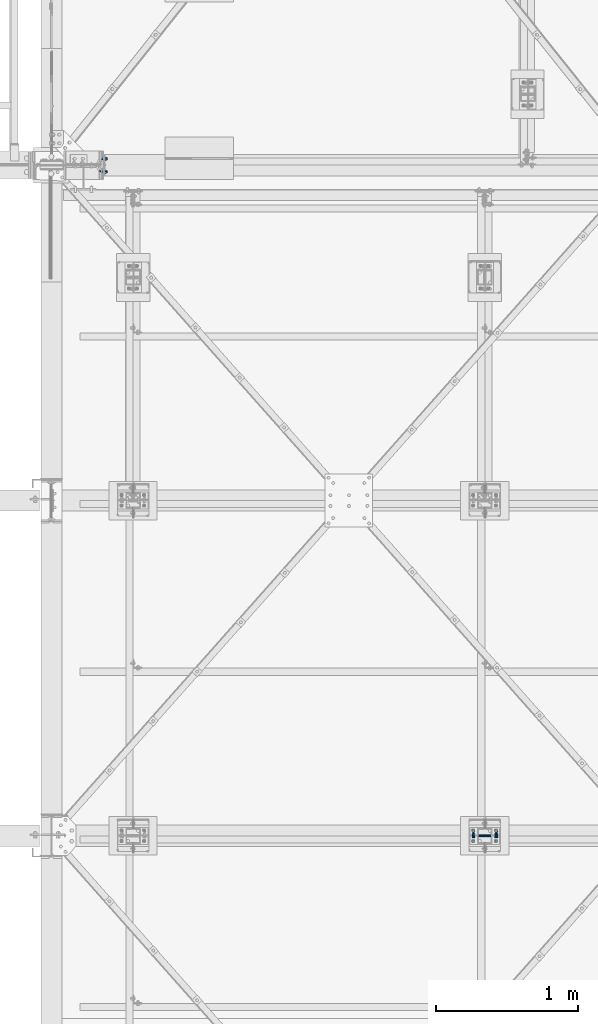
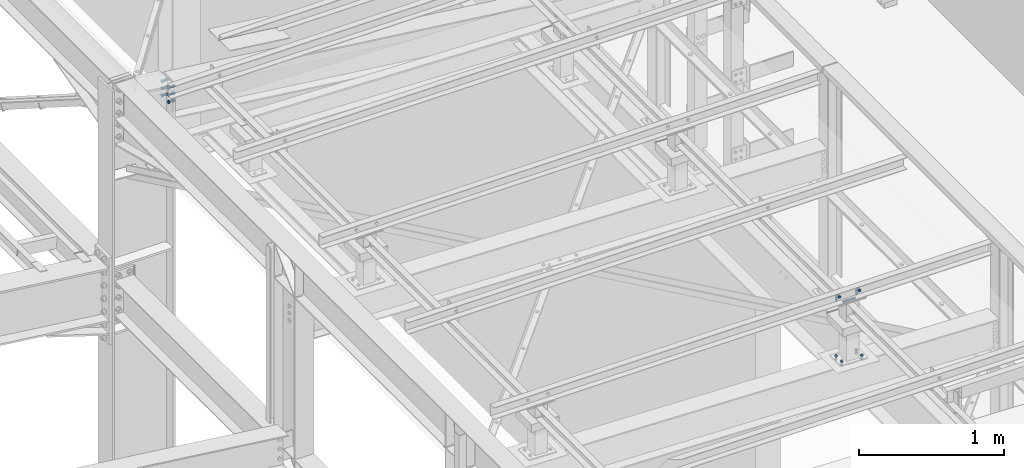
# One storey, part 357 of 3134: 5 mechanical fasteners, 4 elements without a shape of their own.
"""IFC2X3 building model written with IfcOpenShell, lengths in millimetres."""

from ifc_helpers import new_model, si_unit, frame, origin_with_axes, place, context, subcontext, project, spatial, faceted_brep, source, transform, mapped, material, type_object, element, aggregate, save


model = new_model("IFC2X3")

# Units and contexts
model_context = context("Model", 3, precision=1e-05, world=origin_with_axes())
body_context = subcontext(model_context, "Body", "Model", "MODEL_VIEW")
ifc_project = project(units=[si_unit("LENGTHUNIT", "METRE", prefix="MILLI"), si_unit("AREAUNIT", "SQUARE_METRE"), si_unit("VOLUMEUNIT", "CUBIC_METRE"), si_unit("MASSUNIT", "GRAM", prefix="KILO"), si_unit("TIMEUNIT", "SECOND"), si_unit("PLANEANGLEUNIT", "RADIAN"), si_unit("SOLIDANGLEUNIT", "STERADIAN"), si_unit("THERMODYNAMICTEMPERATUREUNIT", "DEGREE_CELSIUS"), si_unit("LUMINOUSINTENSITYUNIT", "LUMEN")], contexts=[model_context])

# Site, building, storey
site_placement = place(None, origin_with_axes())
site = spatial("IfcSite", under=ifc_project, at=site_placement, CompositionType="ELEMENT")
building_placement = place(site_placement, origin_with_axes())
building = spatial("IfcBuilding", under=site, at=building_placement, Name="Undefined", CompositionType="ELEMENT")
storey_placement = place(building_placement, origin_with_axes())
storey = spatial("IfcBuildingStorey", under=building, at=storey_placement, Name="Undefined", CompositionType="ELEMENT", Elevation=0.0)

# Assembly, mechanical fastener
assembly_1_placement = place(storey_placement, origin_with_axes())
assembly_1 = element("IfcElementAssembly", 1, at=assembly_1_placement, inside=storey, AssemblyPlace="NOTDEFINED", PredefinedType="RIGID_FRAME")
ifc_material = material(Name="8.8")
mechanical_fastener_type = type_object("IfcMechanicalFastenerType", Name="Bolt assembly")
shared_shape_1 = source(origin_with_axes(), body_context, "Body", "Brep", [
    faceted_brep([(10.9696551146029, -14.0, 0.0), (5.48482755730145, -14.0, 9.5), (-5.48482755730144, -14.0, 9.5), (-10.9696551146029, -14.0, 1.34339530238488e-15), (-5.48482755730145, -14.0, -9.5), (5.48482755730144, -14.0, -9.50000000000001), (5.48482755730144, -6.0, -9.50000000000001), (-5.48482755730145, -6.0, -9.5), (-10.9696551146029, -6.0, 1.34339530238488e-15), (-5.48482755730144, -6.0, 9.5), (5.48482755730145, -6.0, 9.5), (10.9696551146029, -6.0, 0.0), (6.0, -6.0, 0.0), (5.19615242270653, -6.0, 3.00000000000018), (2.99999999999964, -6.0, 5.19615242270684), (-6.21801588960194e-13, -6.0, 6.0), (-3.00000000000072, -6.0, 5.19615242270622), (-5.19615242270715, -6.0, 2.9999999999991), (-6.0, -6.0, -1.24360317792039e-12), (-5.19615242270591, -6.0, -3.00000000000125), (-2.99999999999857, -6.0, -5.19615242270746), (1.85874342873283e-12, -6.0, -6.0), (3.00000000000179, -6.0, -5.1961524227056), (5.19615242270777, -6.0, -2.99999999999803), (5.19615242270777, 24.0, -2.99999999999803), (3.00000000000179, 24.0, -5.1961524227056), (1.85874342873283e-12, 24.0, -6.0), (-2.99999999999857, 24.0, -5.19615242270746), (-5.19615242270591, 24.0, -3.00000000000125), (-6.0, 24.0, -1.24360317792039e-12), (-5.19615242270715, 24.0, 2.9999999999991), (-3.00000000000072, 24.0, 5.19615242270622), (-6.21801588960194e-13, 24.0, 6.0), (2.99999999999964, 24.0, 5.19615242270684), (5.19615242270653, 24.0, 3.00000000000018), (6.0, 24.0, 0.0), (10.9696551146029, 6.00000000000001, 0.0), (5.48482755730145, 6.00000000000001, 9.5), (-5.48482755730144, 6.00000000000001, 9.5), (-10.9696551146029, 6.00000000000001, 1.34339530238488e-15), (-5.48482755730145, 6.00000000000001, -9.5), (5.48482755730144, 6.00000000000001, -9.50000000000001), (5.48482755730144, 16.0, -9.50000000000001), (-5.48482755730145, 16.0, -9.5), (-10.9696551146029, 16.0, 1.34339530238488e-15), (-5.48482755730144, 16.0, 9.5), (5.48482755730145, 16.0, 9.5), (10.9696551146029, 16.0, 0.0)], [[[0, 1, 2, 3, 4, 5]], [[6, 7, 8, 9, 10, 11]], [[0, 11, 10, 1]], [[1, 10, 9, 2]], [[2, 9, 8, 3]], [[3, 8, 7, 4]], [[4, 7, 6, 5]], [[5, 6, 11, 0]], [[12, 13, 14, 15, 16, 17, 18, 19, 20, 21, 22, 23]], [[24, 25, 26, 27, 28, 29, 30, 31, 32, 33, 34, 35]], [[12, 35, 34, 13]], [[13, 34, 33, 14]], [[14, 33, 32, 15]], [[15, 32, 31, 16]], [[16, 31, 30, 17]], [[17, 30, 29, 18]], [[18, 29, 28, 19]], [[19, 28, 27, 20]], [[20, 27, 26, 21]], [[21, 26, 25, 22]], [[22, 25, 24, 23]], [[23, 24, 35, 12]], [[36, 37, 38, 39, 40, 41]], [[42, 43, 44, 45, 46, 47]], [[36, 47, 46, 37]], [[37, 46, 45, 38]], [[38, 45, 44, 39]], [[39, 44, 43, 40]], [[40, 43, 42, 41]], [[41, 42, 47, 36]]]),
    faceted_brep([(7.0, -0.1, 0.0), (6.06217782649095, -0.1, 3.50000000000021), (3.49999999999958, -0.1, 6.06217782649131), (-7.25435187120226e-13, -0.1, 7.0), (-3.50000000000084, -0.1, 6.06217782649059), (-6.06217782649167, -0.1, 3.49999999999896), (-7.0, -0.1, -1.45087037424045e-12), (-6.06217782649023, -0.1, -3.50000000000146), (-3.49999999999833, -0.1, -6.06217782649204), (2.1685340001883e-12, -0.1, -7.0), (3.50000000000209, -0.1, -6.06217782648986), (6.0621778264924, -0.1, -3.4999999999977), (6.0621778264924, 6.00000000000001, -3.4999999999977), (3.50000000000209, 6.00000000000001, -6.06217782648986), (2.1685340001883e-12, 6.00000000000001, -7.0), (-3.49999999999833, 6.00000000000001, -6.06217782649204), (-6.06217782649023, 6.00000000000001, -3.50000000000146), (-7.0, 6.00000000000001, -1.45087037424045e-12), (-6.06217782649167, 6.00000000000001, 3.49999999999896), (-3.50000000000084, 6.00000000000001, 6.06217782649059), (-7.25435187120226e-13, 6.00000000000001, 7.0), (3.49999999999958, 6.00000000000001, 6.06217782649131), (6.06217782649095, 6.00000000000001, 3.50000000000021), (7.0, 6.00000000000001, 0.0), (7.0, -5.9, 0.0), (6.06217782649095, -5.9, 3.50000000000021), (3.49999999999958, -5.9, 6.06217782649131), (-7.25435187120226e-13, -5.9, 7.0), (-3.50000000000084, -5.9, 6.06217782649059), (-6.06217782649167, -5.9, 3.49999999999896), (-7.0, -5.9, -1.45087037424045e-12), (-6.06217782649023, -5.9, -3.50000000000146), (-3.49999999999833, -5.9, -6.06217782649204), (2.1685340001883e-12, -5.9, -7.0), (3.50000000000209, -5.9, -6.06217782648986), (6.0621778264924, -5.9, -3.4999999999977), (6.0621778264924, 0.0999999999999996, -3.4999999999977), (3.50000000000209, 0.0999999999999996, -6.06217782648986), (2.1685340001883e-12, 0.0999999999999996, -7.0), (-3.49999999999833, 0.0999999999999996, -6.06217782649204), (-6.06217782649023, 0.0999999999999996, -3.50000000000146), (-7.0, 0.0999999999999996, -1.45087037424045e-12), (-6.06217782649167, 0.0999999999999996, 3.49999999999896), (-3.50000000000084, 0.0999999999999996, 6.06217782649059), (-7.25435187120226e-13, 0.0999999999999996, 7.0), (3.49999999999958, 0.0999999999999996, 6.06217782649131), (6.06217782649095, 0.0999999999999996, 3.50000000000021), (7.0, 0.0999999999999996, 0.0)], [[[0, 1, 2, 3, 4, 5, 6, 7, 8, 9, 10, 11]], [[12, 13, 14, 15, 16, 17, 18, 19, 20, 21, 22, 23]], [[0, 23, 22, 1]], [[1, 22, 21, 2]], [[2, 21, 20, 3]], [[3, 20, 19, 4]], [[4, 19, 18, 5]], [[5, 18, 17, 6]], [[6, 17, 16, 7]], [[7, 16, 15, 8]], [[8, 15, 14, 9]], [[9, 14, 13, 10]], [[10, 13, 12, 11]], [[11, 12, 23, 0]], [[24, 25, 26, 27, 28, 29, 30, 31, 32, 33, 34, 35]], [[36, 37, 38, 39, 40, 41, 42, 43, 44, 45, 46, 47]], [[24, 47, 46, 25]], [[25, 46, 45, 26]], [[26, 45, 44, 27]], [[27, 44, 43, 28]], [[28, 43, 42, 29]], [[29, 42, 41, 30]], [[30, 41, 40, 31]], [[31, 40, 39, 32]], [[32, 39, 38, 33]], [[33, 38, 37, 34]], [[34, 37, 36, 35]], [[35, 36, 47, 24]]]),
])
mechanical_fastener_1_placement = place(assembly_1_placement, frame((70600.0, 14765.0, 5850.0), z_axis=(1.0, 0.0, 0.0), x_axis=(0.0, -1.0, 0.0)))
mechanical_fastener_1 = element("IfcMechanicalFastener", 2, at=mechanical_fastener_1_placement, type_object=mechanical_fastener_type, material=ifc_material, Name="Bolt assembly", NominalDiameter=12.0, NominalLength=30.0, context=body_context, shape_type="MappedRepresentation", body=[
    mapped(shared_shape_1, transform((0.0, -5.32963895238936e-10, -79.9999999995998))),
    mapped(shared_shape_1, transform((0.0, 5.3114490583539e-10, 79.9999999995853))),
])

assembly_2_placement = place(storey_placement, origin_with_axes())
assembly_2 = element("IfcElementAssembly", 3, at=assembly_2_placement, inside=storey, AssemblyPlace="NOTDEFINED", PredefinedType="RIGID_FRAME")
shared_shape_2 = source(origin_with_axes(), body_context, "Body", "Brep", [
    faceted_brep([(9.0, -50.0, 0.0), (7.79422863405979, -50.0, 4.50000000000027), (4.49999999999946, -50.0, 7.79422863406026), (-9.3270238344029e-13, -50.0, 9.0), (-4.50000000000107, -50.0, 7.79422863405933), (-7.79422863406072, -50.0, 4.49999999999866), (-9.0, -50.0, -1.86540476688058e-12), (-7.79422863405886, -50.0, -4.50000000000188), (-4.49999999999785, -50.0, -7.79422863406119), (2.78811514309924e-12, -50.0, -9.0), (4.50000000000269, -50.0, -7.7942286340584), (7.79422863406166, -50.0, -4.49999999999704), (7.79422863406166, 50.1, -4.49999999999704), (4.50000000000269, 50.1, -7.7942286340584), (2.78811514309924e-12, 50.1, -9.0), (-4.49999999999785, 50.1, -7.79422863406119), (-7.79422863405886, 50.1, -4.50000000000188), (-9.0, 50.1, -1.86540476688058e-12), (-7.79422863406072, 50.1, 4.49999999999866), (-4.50000000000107, 50.1, 7.79422863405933), (-9.3270238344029e-13, 50.1, 9.0), (4.49999999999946, 50.1, 7.79422863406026), (7.79422863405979, 50.1, 4.50000000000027), (9.0, 50.1, 0.0)], [[[0, 1, 2, 3, 4, 5, 6, 7, 8, 9, 10, 11]], [[12, 13, 14, 15, 16, 17, 18, 19, 20, 21, 22, 23]], [[0, 23, 22, 1]], [[1, 22, 21, 2]], [[2, 21, 20, 3]], [[3, 20, 19, 4]], [[4, 19, 18, 5]], [[5, 18, 17, 6]], [[6, 17, 16, 7]], [[7, 16, 15, 8]], [[8, 15, 14, 9]], [[9, 14, 13, 10]], [[10, 13, 12, 11]], [[11, 12, 23, 0]]]),
])
mechanical_fastener_2_placement = place(assembly_2_placement, frame((70600.0, 14730.0, 5830.0), z_axis=(0.0, 1.0, 0.0), x_axis=(0.0, 0.0, 1.0)))
mechanical_fastener_2 = element("IfcMechanicalFastener", 4, at=mechanical_fastener_2_placement, type_object=mechanical_fastener_type, material=ifc_material, Name="Bolt assembly", NominalDiameter=16.0, NominalLength=100.0, context=body_context, shape_type="MappedRepresentation", body=[
    mapped(shared_shape_2, transform((0.0, 0.0, 0.0))),
])
aggregate(assembly_2, [mechanical_fastener_2])

# Mechanical fastener
shared_shape_3 = source(origin_with_axes(), body_context, "Body", "Brep", [
    faceted_brep([(10.9696551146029, -12.0, 0.0), (5.48482755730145, -12.0, 9.5), (-5.48482755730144, -12.0, 9.5), (-10.9696551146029, -12.0, 1.34339530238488e-15), (-5.48482755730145, -12.0, -9.5), (5.48482755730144, -12.0, -9.50000000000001), (5.48482755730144, -4.0, -9.50000000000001), (-5.48482755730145, -4.0, -9.5), (-10.9696551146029, -4.0, 1.34339530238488e-15), (-5.48482755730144, -4.0, 9.5), (5.48482755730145, -4.0, 9.5), (10.9696551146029, -4.0, 0.0), (6.0, -4.0, 0.0), (5.19615242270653, -4.0, 3.00000000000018), (2.99999999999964, -4.0, 5.19615242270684), (-6.21801588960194e-13, -4.0, 6.0), (-3.00000000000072, -4.0, 5.19615242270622), (-5.19615242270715, -4.0, 2.9999999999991), (-6.0, -4.0, -1.24360317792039e-12), (-5.19615242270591, -4.0, -3.00000000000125), (-2.99999999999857, -4.0, -5.19615242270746), (1.85874342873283e-12, -4.0, -6.0), (3.00000000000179, -4.0, -5.1961524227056), (5.19615242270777, -4.0, -2.99999999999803), (5.19615242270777, 21.0, -2.99999999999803), (3.00000000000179, 21.0, -5.1961524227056), (1.85874342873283e-12, 21.0, -6.0), (-2.99999999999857, 21.0, -5.19615242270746), (-5.19615242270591, 21.0, -3.00000000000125), (-6.0, 21.0, -1.24360317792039e-12), (-5.19615242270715, 21.0, 2.9999999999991), (-3.00000000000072, 21.0, 5.19615242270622), (-6.21801588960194e-13, 21.0, 6.0), (2.99999999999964, 21.0, 5.19615242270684), (5.19615242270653, 21.0, 3.00000000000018), (6.0, 21.0, 0.0), (10.9696551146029, 6.00000000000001, 0.0), (5.48482755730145, 6.00000000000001, 9.5), (-5.48482755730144, 6.00000000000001, 9.5), (-10.9696551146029, 6.00000000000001, 1.34339530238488e-15), (-5.48482755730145, 6.00000000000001, -9.5), (5.48482755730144, 6.00000000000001, -9.50000000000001), (5.48482755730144, 16.0, -9.50000000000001), (-5.48482755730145, 16.0, -9.5), (-10.9696551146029, 16.0, 1.34339530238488e-15), (-5.48482755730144, 16.0, 9.5), (5.48482755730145, 16.0, 9.5), (10.9696551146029, 16.0, 0.0)], [[[0, 1, 2, 3, 4, 5]], [[6, 7, 8, 9, 10, 11]], [[0, 11, 10, 1]], [[1, 10, 9, 2]], [[2, 9, 8, 3]], [[3, 8, 7, 4]], [[4, 7, 6, 5]], [[5, 6, 11, 0]], [[12, 13, 14, 15, 16, 17, 18, 19, 20, 21, 22, 23]], [[24, 25, 26, 27, 28, 29, 30, 31, 32, 33, 34, 35]], [[12, 35, 34, 13]], [[13, 34, 33, 14]], [[14, 33, 32, 15]], [[15, 32, 31, 16]], [[16, 31, 30, 17]], [[17, 30, 29, 18]], [[18, 29, 28, 19]], [[19, 28, 27, 20]], [[20, 27, 26, 21]], [[21, 26, 25, 22]], [[22, 25, 24, 23]], [[23, 24, 35, 12]], [[36, 37, 38, 39, 40, 41]], [[42, 43, 44, 45, 46, 47]], [[36, 47, 46, 37]], [[37, 46, 45, 38]], [[38, 45, 44, 39]], [[39, 44, 43, 40]], [[40, 43, 42, 41]], [[41, 42, 47, 36]]]),
    faceted_brep([(7.0, -3.9, 0.0), (6.06217782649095, -3.9, 3.50000000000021), (3.49999999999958, -3.9, 6.06217782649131), (-7.25435187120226e-13, -3.9, 7.0), (-3.50000000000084, -3.9, 6.06217782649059), (-6.06217782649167, -3.9, 3.49999999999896), (-7.0, -3.9, -1.45087037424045e-12), (-6.06217782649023, -3.9, -3.50000000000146), (-3.49999999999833, -3.9, -6.06217782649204), (2.1685340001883e-12, -3.9, -7.0), (3.50000000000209, -3.9, -6.06217782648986), (6.0621778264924, -3.9, -3.4999999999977), (6.0621778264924, 0.0999999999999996, -3.4999999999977), (3.50000000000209, 0.0999999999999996, -6.06217782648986), (2.1685340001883e-12, 0.0999999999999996, -7.0), (-3.49999999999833, 0.0999999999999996, -6.06217782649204), (-6.06217782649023, 0.0999999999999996, -3.50000000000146), (-7.0, 0.0999999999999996, -1.45087037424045e-12), (-6.06217782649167, 0.0999999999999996, 3.49999999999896), (-3.50000000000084, 0.0999999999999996, 6.06217782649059), (-7.25435187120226e-13, 0.0999999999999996, 7.0), (3.49999999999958, 0.0999999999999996, 6.06217782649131), (6.06217782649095, 0.0999999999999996, 3.50000000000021), (7.0, 0.0999999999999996, 0.0), (7.0, -0.1, 0.0), (6.06217782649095, -0.1, 3.50000000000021), (3.49999999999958, -0.1, 6.06217782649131), (-7.25435187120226e-13, -0.1, 7.0), (-3.50000000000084, -0.1, 6.06217782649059), (-6.06217782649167, -0.1, 3.49999999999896), (-7.0, -0.1, -1.45087037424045e-12), (-6.06217782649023, -0.1, -3.50000000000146), (-3.49999999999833, -0.1, -6.06217782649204), (2.1685340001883e-12, -0.1, -7.0), (3.50000000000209, -0.1, -6.06217782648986), (6.0621778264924, -0.1, -3.4999999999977), (6.0621778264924, 6.00000000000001, -3.4999999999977), (3.50000000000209, 6.00000000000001, -6.06217782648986), (2.1685340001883e-12, 6.00000000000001, -7.0), (-3.49999999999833, 6.00000000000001, -6.06217782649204), (-6.06217782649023, 6.00000000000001, -3.50000000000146), (-7.0, 6.00000000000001, -1.45087037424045e-12), (-6.06217782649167, 6.00000000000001, 3.49999999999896), (-3.50000000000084, 6.00000000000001, 6.06217782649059), (-7.25435187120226e-13, 6.00000000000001, 7.0), (3.49999999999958, 6.00000000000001, 6.06217782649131), (6.06217782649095, 6.00000000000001, 3.50000000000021), (7.0, 6.00000000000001, 0.0)], [[[0, 1, 2, 3, 4, 5, 6, 7, 8, 9, 10, 11]], [[12, 13, 14, 15, 16, 17, 18, 19, 20, 21, 22, 23]], [[0, 23, 22, 1]], [[1, 22, 21, 2]], [[2, 21, 20, 3]], [[3, 20, 19, 4]], [[4, 19, 18, 5]], [[5, 18, 17, 6]], [[6, 17, 16, 7]], [[7, 16, 15, 8]], [[8, 15, 14, 9]], [[9, 14, 13, 10]], [[10, 13, 12, 11]], [[11, 12, 23, 0]], [[24, 25, 26, 27, 28, 29, 30, 31, 32, 33, 34, 35]], [[36, 37, 38, 39, 40, 41, 42, 43, 44, 45, 46, 47]], [[24, 47, 46, 25]], [[25, 46, 45, 26]], [[26, 45, 44, 27]], [[27, 44, 43, 28]], [[28, 43, 42, 29]], [[29, 42, 41, 30]], [[30, 41, 40, 31]], [[31, 40, 39, 32]], [[32, 39, 38, 33]], [[33, 38, 37, 34]], [[34, 37, 36, 35]], [[35, 36, 47, 24]]]),
])
mechanical_fastener_3_placement = place(assembly_1_placement, frame((70600.0, 14730.0, 5885.0), z_axis=(1.0, 0.0, 0.0), x_axis=(0.0, 0.0, -1.0)))
mechanical_fastener_3 = element("IfcMechanicalFastener", 5, at=mechanical_fastener_3_placement, type_object=mechanical_fastener_type, material=ifc_material, Name="Bolt assembly", NominalDiameter=12.0, NominalLength=25.0, context=body_context, shape_type="MappedRepresentation", body=[
    mapped(shared_shape_3, transform((0.0, -5.32963895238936e-10, -79.9999999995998))),
    mapped(shared_shape_3, transform((0.0, 5.3114490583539e-10, 79.9999999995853))),
])

aggregate(assembly_1, [mechanical_fastener_3, mechanical_fastener_1])

# Assembly, mechanical fastener
assembly_3_placement = place(storey_placement, origin_with_axes())
assembly_3 = element("IfcElementAssembly", 6, at=assembly_3_placement, inside=storey, Name="300", AssemblyPlace="NOTDEFINED", PredefinedType="RIGID_FRAME")
shared_shape_4 = source(origin_with_axes(), body_context, "Body", "Brep", [
    faceted_brep([(10.9696551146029, -10.1955642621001, 0.0), (5.48482755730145, -10.1955642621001, 9.5), (-5.48482755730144, -10.1955642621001, 9.5), (-10.9696551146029, -10.1955642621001, 1.34339530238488e-15), (-5.48482755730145, -10.1955642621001, -9.5), (5.48482755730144, -10.1955642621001, -9.50000000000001), (5.48482755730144, -2.19556426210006, -9.50000000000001), (-5.48482755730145, -2.19556426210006, -9.5), (-10.9696551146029, -2.19556426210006, 1.34339530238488e-15), (-5.48482755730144, -2.19556426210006, 9.5), (5.48482755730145, -2.19556426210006, 9.5), (10.9696551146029, -2.19556426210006, 0.0), (6.0, -2.19556426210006, 0.0), (5.19615242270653, -2.19556426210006, 3.00000000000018), (2.99999999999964, -2.19556426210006, 5.19615242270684), (-6.21801588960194e-13, -2.19556426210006, 6.0), (-3.00000000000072, -2.19556426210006, 5.19615242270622), (-5.19615242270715, -2.19556426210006, 2.9999999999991), (-6.0, -2.19556426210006, -1.24360317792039e-12), (-5.19615242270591, -2.19556426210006, -3.00000000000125), (-2.99999999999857, -2.19556426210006, -5.19615242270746), (1.85874342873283e-12, -2.19556426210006, -6.0), (3.00000000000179, -2.19556426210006, -5.1961524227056), (5.19615242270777, -2.19556426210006, -2.99999999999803), (5.19615242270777, 32.8044357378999, -2.99999999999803), (3.00000000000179, 32.8044357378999, -5.1961524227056), (1.85874342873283e-12, 32.8044357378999, -6.0), (-2.99999999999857, 32.8044357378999, -5.19615242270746), (-5.19615242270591, 32.8044357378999, -3.00000000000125), (-6.0, 32.8044357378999, -1.24360317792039e-12), (-5.19615242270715, 32.8044357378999, 2.9999999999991), (-3.00000000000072, 32.8044357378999, 5.19615242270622), (-6.21801588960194e-13, 32.8044357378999, 6.0), (2.99999999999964, 32.8044357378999, 5.19615242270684), (5.19615242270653, 32.8044357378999, 3.00000000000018), (6.0, 32.8044357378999, 0.0), (10.9696551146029, 17.0008987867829, 0.0), (5.48482755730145, 17.0008987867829, 9.5), (-5.48482755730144, 17.0008987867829, 9.5), (-10.9696551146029, 17.0008987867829, 1.34339530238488e-15), (-5.48482755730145, 17.0008987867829, -9.5), (5.48482755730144, 17.0008987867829, -9.50000000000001), (5.48482755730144, 27.0008987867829, -9.50000000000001), (-5.48482755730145, 27.0008987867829, -9.5), (-10.9696551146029, 27.0008987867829, 1.34339530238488e-15), (-5.48482755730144, 27.0008987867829, 9.5), (5.48482755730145, 27.0008987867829, 9.5), (10.9696551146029, 27.0008987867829, 0.0)], [[[0, 1, 2, 3, 4, 5]], [[6, 7, 8, 9, 10, 11]], [[0, 11, 10, 1]], [[1, 10, 9, 2]], [[2, 9, 8, 3]], [[3, 8, 7, 4]], [[4, 7, 6, 5]], [[5, 6, 11, 0]], [[12, 13, 14, 15, 16, 17, 18, 19, 20, 21, 22, 23]], [[24, 25, 26, 27, 28, 29, 30, 31, 32, 33, 34, 35]], [[12, 35, 34, 13]], [[13, 34, 33, 14]], [[14, 33, 32, 15]], [[15, 32, 31, 16]], [[16, 31, 30, 17]], [[17, 30, 29, 18]], [[18, 29, 28, 19]], [[19, 28, 27, 20]], [[20, 27, 26, 21]], [[21, 26, 25, 22]], [[22, 25, 24, 23]], [[23, 24, 35, 12]], [[36, 37, 38, 39, 40, 41]], [[42, 43, 44, 45, 46, 47]], [[36, 47, 46, 37]], [[37, 46, 45, 38]], [[38, 45, 44, 39]], [[39, 44, 43, 40]], [[40, 43, 42, 41]], [[41, 42, 47, 36]]]),
    faceted_brep([(7.0, 8.90089878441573, 0.0), (6.06217782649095, 8.90089878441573, 3.50000000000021), (3.49999999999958, 8.90089878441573, 6.06217782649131), (-7.25435187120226e-13, 8.90089878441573, 7.0), (-3.50000000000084, 8.90089878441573, 6.06217782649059), (-6.06217782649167, 8.90089878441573, 3.49999999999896), (-7.0, 8.90089878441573, -1.45087037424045e-12), (-6.06217782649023, 8.90089878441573, -3.50000000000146), (-3.49999999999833, 8.90089878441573, -6.06217782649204), (2.1685340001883e-12, 8.90089878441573, -7.0), (3.50000000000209, 8.90089878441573, -6.06217782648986), (6.0621778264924, 8.90089878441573, -3.4999999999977), (6.0621778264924, 17.0008987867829, -3.4999999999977), (3.50000000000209, 17.0008987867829, -6.06217782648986), (2.1685340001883e-12, 17.0008987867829, -7.0), (-3.49999999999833, 17.0008987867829, -6.06217782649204), (-6.06217782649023, 17.0008987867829, -3.50000000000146), (-7.0, 17.0008987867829, -1.45087037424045e-12), (-6.06217782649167, 17.0008987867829, 3.49999999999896), (-3.50000000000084, 17.0008987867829, 6.06217782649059), (-7.25435187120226e-13, 17.0008987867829, 7.0), (3.49999999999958, 17.0008987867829, 6.06217782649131), (6.06217782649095, 17.0008987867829, 3.50000000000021), (7.0, 17.0008987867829, 0.0), (7.0, -2.09556426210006, 0.0), (6.06217782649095, -2.09556426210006, 3.50000000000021), (3.49999999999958, -2.09556426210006, 6.06217782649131), (-7.25435187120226e-13, -2.09556426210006, 7.0), (-3.50000000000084, -2.09556426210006, 6.06217782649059), (-6.06217782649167, -2.09556426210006, 3.49999999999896), (-7.0, -2.09556426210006, -1.45087037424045e-12), (-6.06217782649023, -2.09556426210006, -3.50000000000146), (-3.49999999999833, -2.09556426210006, -6.06217782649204), (2.1685340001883e-12, -2.09556426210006, -7.0), (3.50000000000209, -2.09556426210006, -6.06217782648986), (6.0621778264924, -2.09556426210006, -3.4999999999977), (6.0621778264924, 7.10443554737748, -3.4999999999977), (3.50000000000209, 7.10443554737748, -6.06217782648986), (2.1685340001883e-12, 7.10443554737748, -7.0), (-3.49999999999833, 7.10443554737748, -6.06217782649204), (-6.06217782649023, 7.10443554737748, -3.50000000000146), (-7.0, 7.10443554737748, -1.45087037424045e-12), (-6.06217782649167, 7.10443554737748, 3.49999999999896), (-3.50000000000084, 7.10443554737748, 6.06217782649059), (-7.25435187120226e-13, 7.10443554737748, 7.0), (3.49999999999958, 7.10443554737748, 6.06217782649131), (6.06217782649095, 7.10443554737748, 3.50000000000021), (7.0, 7.10443554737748, 0.0)], [[[0, 1, 2, 3, 4, 5, 6, 7, 8, 9, 10, 11]], [[12, 13, 14, 15, 16, 17, 18, 19, 20, 21, 22, 23]], [[0, 23, 22, 1]], [[1, 22, 21, 2]], [[2, 21, 20, 3]], [[3, 20, 19, 4]], [[4, 19, 18, 5]], [[5, 18, 17, 6]], [[6, 17, 16, 7]], [[7, 16, 15, 8]], [[8, 15, 14, 9]], [[9, 14, 13, 10]], [[10, 13, 12, 11]], [[11, 12, 23, 0]], [[24, 25, 26, 27, 28, 29, 30, 31, 32, 33, 34, 35]], [[36, 37, 38, 39, 40, 41, 42, 43, 44, 45, 46, 47]], [[24, 47, 46, 25]], [[25, 46, 45, 26]], [[26, 45, 44, 27]], [[27, 44, 43, 28]], [[28, 43, 42, 29]], [[29, 42, 41, 30]], [[30, 41, 40, 31]], [[31, 40, 39, 32]], [[32, 39, 38, 33]], [[33, 38, 37, 34]], [[34, 37, 36, 35]], [[35, 36, 47, 24]]]),
])
mechanical_fastener_4_placement = place(assembly_3_placement, frame((70599.5351187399, 14768.0, 5338.4572055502), z_axis=(-0.99951962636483, 0.0, 0.0309922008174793), x_axis=(0.0, -1.0, 0.0)))
mechanical_fastener_4 = element("IfcMechanicalFastener", 7, at=mechanical_fastener_4_placement, type_object=mechanical_fastener_type, material=ifc_material, Name="Bolt assembly", NominalDiameter=12.0, NominalLength=35.0, context=body_context, shape_type="MappedRepresentation", body=[
    mapped(shared_shape_4, transform((0.0, -5.32963895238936e-10, -79.9999999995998))),
    mapped(shared_shape_4, transform((76.0, -5.32963895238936e-10, -79.9999999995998))),
    mapped(shared_shape_4, transform((0.0, 5.3114490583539e-10, 79.9999999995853))),
    mapped(shared_shape_4, transform((76.0, 5.3114490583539e-10, 79.9999999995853))),
])
aggregate(assembly_3, [mechanical_fastener_4])

assembly_4_placement = place(storey_placement, origin_with_axes())
assembly_4 = element("IfcElementAssembly", 8, at=assembly_4_placement, inside=storey, Name="300", AssemblyPlace="NOTDEFINED", PredefinedType="RIGID_FRAME")
shared_shape_5 = source(origin_with_axes(), body_context, "Body", "Brep", [
    faceted_brep([(13.856406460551, -36.0000003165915, 0.0), (6.92820323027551, -36.0000003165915, 12.0), (-6.92820323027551, -36.0000003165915, 12.0), (-13.856406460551, -36.0000003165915, 1.69692038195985e-15), (-6.92820323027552, -36.0000003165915, -12.0), (6.9282032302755, -36.0000003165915, -12.0), (6.9282032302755, -26.0000003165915, -12.0), (-6.92820323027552, -26.0000003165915, -12.0), (-13.856406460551, -26.0000003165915, 1.69692038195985e-15), (-6.92820323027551, -26.0000003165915, 12.0), (6.92820323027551, -26.0000003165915, 12.0), (13.856406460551, -26.0000003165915, 0.0), (8.0, -26.0000003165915, 0.0), (6.92820323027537, -26.0000003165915, 4.00000000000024), (3.99999999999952, -26.0000003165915, 6.92820323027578), (-8.29068785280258e-13, -26.0000003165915, 8.0), (-4.00000000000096, -26.0000003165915, 6.92820323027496), (-6.9282032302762, -26.0000003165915, 3.99999999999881), (-8.0, -26.0000003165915, -1.65813757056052e-12), (-6.92820323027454, -26.0000003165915, -4.00000000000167), (-3.99999999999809, -26.0000003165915, -6.92820323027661), (2.47832457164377e-12, -26.0000003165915, -8.0), (4.00000000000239, -26.0000003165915, -6.92820323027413), (6.92820323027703, -26.0000003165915, -3.99999999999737), (6.92820323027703, 19.0, -3.99999999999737), (4.00000000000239, 19.0, -6.92820323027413), (2.47832457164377e-12, 19.0, -8.0), (-3.99999999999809, 19.0, -6.92820323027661), (-6.92820323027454, 19.0, -4.00000000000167), (-8.0, 19.0, -1.65813757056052e-12), (-6.9282032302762, 19.0, 3.99999999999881), (-4.00000000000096, 19.0, 6.92820323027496), (-8.29068785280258e-13, 19.0, 8.0), (3.99999999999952, 19.0, 6.92820323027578), (6.92820323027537, 19.0, 4.00000000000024), (8.0, 19.0, 0.0), (13.856406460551, 0.0, 0.0), (6.92820323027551, 0.0, 12.0), (-6.92820323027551, 0.0, 12.0), (-13.856406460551, 0.0, 1.69692038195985e-15), (-6.92820323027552, 0.0, -12.0), (6.9282032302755, 0.0, -12.0), (6.9282032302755, 12.9999996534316, -12.0), (-6.92820323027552, 12.9999996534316, -12.0), (-13.856406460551, 12.9999996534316, 1.69692038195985e-15), (-6.92820323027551, 12.9999996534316, 12.0), (6.92820323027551, 12.9999996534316, 12.0), (13.856406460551, 12.9999996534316, 0.0)], [[[0, 1, 2, 3, 4, 5]], [[6, 7, 8, 9, 10, 11]], [[0, 11, 10, 1]], [[1, 10, 9, 2]], [[2, 9, 8, 3]], [[3, 8, 7, 4]], [[4, 7, 6, 5]], [[5, 6, 11, 0]], [[12, 13, 14, 15, 16, 17, 18, 19, 20, 21, 22, 23]], [[24, 25, 26, 27, 28, 29, 30, 31, 32, 33, 34, 35]], [[12, 35, 34, 13]], [[13, 34, 33, 14]], [[14, 33, 32, 15]], [[15, 32, 31, 16]], [[16, 31, 30, 17]], [[17, 30, 29, 18]], [[18, 29, 28, 19]], [[19, 28, 27, 20]], [[20, 27, 26, 21]], [[21, 26, 25, 22]], [[22, 25, 24, 23]], [[23, 24, 35, 12]], [[36, 37, 38, 39, 40, 41]], [[42, 43, 44, 45, 46, 47]], [[36, 47, 46, 37]], [[37, 46, 45, 38]], [[38, 45, 44, 39]], [[39, 44, 43, 40]], [[40, 43, 42, 41]], [[41, 42, 47, 36]]]),
    faceted_brep([(9.0, -25.9000003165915, 0.0), (7.79422863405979, -25.9000003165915, 4.50000000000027), (4.49999999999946, -25.9000003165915, 7.79422863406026), (-9.3270238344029e-13, -25.9000003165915, 9.0), (-4.50000000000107, -25.9000003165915, 7.79422863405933), (-7.79422863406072, -25.9000003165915, 4.49999999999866), (-9.0, -25.9000003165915, -1.86540476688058e-12), (-7.79422863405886, -25.9000003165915, -4.50000000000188), (-4.49999999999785, -25.9000003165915, -7.79422863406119), (2.78811514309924e-12, -25.9000003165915, -9.0), (4.50000000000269, -25.9000003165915, -7.7942286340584), (7.79422863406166, -25.9000003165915, -4.49999999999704), (7.79422863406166, -9.89999997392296, -4.49999999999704), (4.50000000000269, -9.89999997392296, -7.7942286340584), (2.78811514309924e-12, -9.89999997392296, -9.0), (-4.49999999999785, -9.89999997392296, -7.79422863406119), (-7.79422863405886, -9.89999997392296, -4.50000000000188), (-9.0, -9.89999997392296, -1.86540476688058e-12), (-7.79422863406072, -9.89999997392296, 4.49999999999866), (-4.50000000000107, -9.89999997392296, 7.79422863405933), (-9.3270238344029e-13, -9.89999997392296, 9.0), (4.49999999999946, -9.89999997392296, 7.79422863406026), (7.79422863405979, -9.89999997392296, 4.50000000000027), (9.0, -9.89999997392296, 0.0), (9.0, -10.1000003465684, 0.0), (7.79422863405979, -10.1000003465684, 4.50000000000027), (4.49999999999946, -10.1000003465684, 7.79422863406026), (-9.3270238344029e-13, -10.1000003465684, 9.0), (-4.50000000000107, -10.1000003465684, 7.79422863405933), (-7.79422863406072, -10.1000003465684, 4.49999999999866), (-9.0, -10.1000003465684, -1.86540476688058e-12), (-7.79422863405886, -10.1000003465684, -4.50000000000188), (-4.49999999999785, -10.1000003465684, -7.79422863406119), (2.78811514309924e-12, -10.1000003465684, -9.0), (4.50000000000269, -10.1000003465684, -7.7942286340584), (7.79422863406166, -10.1000003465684, -4.49999999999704), (7.79422863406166, -3.46568413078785e-07, -4.49999999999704), (4.50000000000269, -3.46568413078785e-07, -7.7942286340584), (2.78811514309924e-12, -3.46568413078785e-07, -9.0), (-4.49999999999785, -3.46568413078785e-07, -7.79422863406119), (-7.79422863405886, -3.46568413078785e-07, -4.50000000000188), (-9.0, -3.46568413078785e-07, -1.86540476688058e-12), (-7.79422863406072, -3.46568413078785e-07, 4.49999999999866), (-4.50000000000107, -3.46568413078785e-07, 7.79422863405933), (-9.3270238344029e-13, -3.46568413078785e-07, 9.0), (4.49999999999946, -3.46568413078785e-07, 7.79422863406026), (7.79422863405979, -3.46568413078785e-07, 4.50000000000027), (9.0, -3.46568413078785e-07, 0.0)], [[[0, 1, 2, 3, 4, 5, 6, 7, 8, 9, 10, 11]], [[12, 13, 14, 15, 16, 17, 18, 19, 20, 21, 22, 23]], [[0, 23, 22, 1]], [[1, 22, 21, 2]], [[2, 21, 20, 3]], [[3, 20, 19, 4]], [[4, 19, 18, 5]], [[5, 18, 17, 6]], [[6, 17, 16, 7]], [[7, 16, 15, 8]], [[8, 15, 14, 9]], [[9, 14, 13, 10]], [[10, 13, 12, 11]], [[11, 12, 23, 0]], [[24, 25, 26, 27, 28, 29, 30, 31, 32, 33, 34, 35]], [[36, 37, 38, 39, 40, 41, 42, 43, 44, 45, 46, 47]], [[24, 47, 46, 25]], [[25, 46, 45, 26]], [[26, 45, 44, 27]], [[27, 44, 43, 28]], [[28, 43, 42, 29]], [[29, 42, 41, 30]], [[30, 41, 40, 31]], [[31, 40, 39, 32]], [[32, 39, 38, 33]], [[33, 38, 37, 34]], [[34, 37, 36, 35]], [[35, 36, 47, 24]]]),
])
mechanical_fastener_5_placement = place(assembly_4_placement, frame((67925.0000003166, 19450.0, 5603.20113578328), z_axis=(0.0, 1.0, 0.0), x_axis=(0.0, 0.0, 1.0)))
mechanical_fastener_5 = element("IfcMechanicalFastener", 9, at=mechanical_fastener_5_placement, type_object=mechanical_fastener_type, material=ifc_material, Name="Bolt assembly", NominalDiameter=16.0, NominalLength=45.0, context=body_context, shape_type="MappedRepresentation", body=[
    mapped(shared_shape_5, transform((0.0, 0.0, -45.0))),
    mapped(shared_shape_5, transform((60.0, 0.0, -45.0))),
    mapped(shared_shape_5, transform((120.0, 0.0, -45.0))),
    mapped(shared_shape_5, transform((0.0, 0.0, 45.0))),
    mapped(shared_shape_5, transform((60.0, 0.0, 45.0))),
    mapped(shared_shape_5, transform((120.0, 0.0, 45.0))),
])
aggregate(assembly_4, [mechanical_fastener_5])

save(model, "model.ifc")
